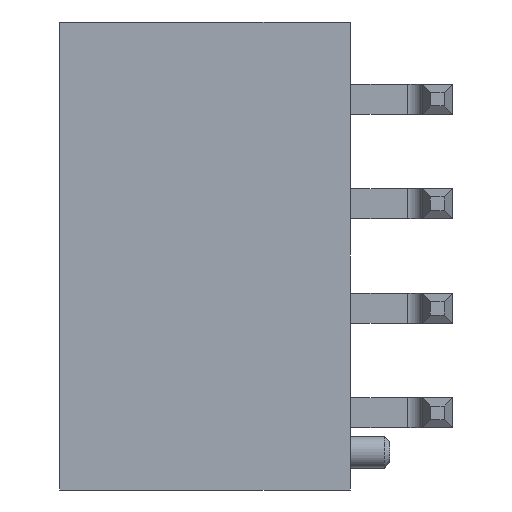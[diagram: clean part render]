
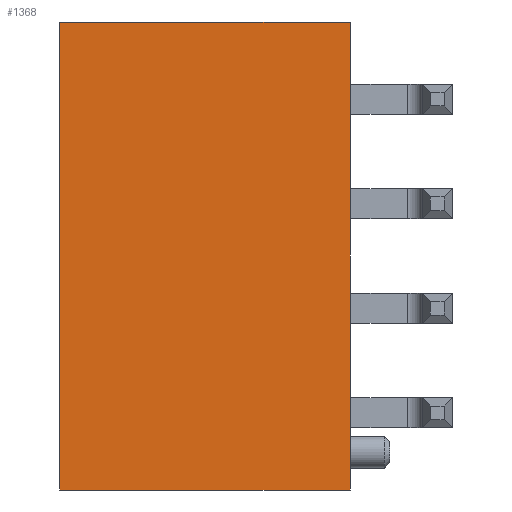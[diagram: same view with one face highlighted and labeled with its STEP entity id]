
A CAD part, left-side view. The second image highlights one B-rep face of the part: STEP entity #1368.
In plain terms, the highlighted planar face has unit normal (-1, 0, 0).
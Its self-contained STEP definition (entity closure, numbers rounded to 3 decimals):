
#56 = EDGE_CURVE ( 'NONE', #419, #5178, #6038, .T. ) ;
#60 = VECTOR ( 'NONE', #5483, 1000. ) ;
#272 = AXIS2_PLACEMENT_3D ( 'NONE', #753, #2614, #3634 ) ;
#419 = VERTEX_POINT ( 'NONE', #3864 ) ;
#421 = ORIENTED_EDGE ( 'NONE', *, *, #4378, .T. ) ;
#422 = VECTOR ( 'NONE', #2773, 1000. ) ;
#520 = CARTESIAN_POINT ( 'NONE',  ( -3.7, -2.861, 12.82 ) ) ;
#542 = EDGE_CURVE ( 'NONE', #419, #1916, #5542, .T. ) ;
#753 = CARTESIAN_POINT ( 'NONE',  ( -3.7, 8.139, 12.82 ) ) ;
#1246 = CARTESIAN_POINT ( 'NONE',  ( -3.7, -2.861, -12.82 ) ) ;
#1299 = CARTESIAN_POINT ( 'NONE',  ( -3.7, 8.139, -12.82 ) ) ;
#1358 = ORIENTED_EDGE ( 'NONE', *, *, #3536, .F. ) ;
#1368 = ADVANCED_FACE ( 'NONE', ( #4943 ), #2114, .F. ) ;
#1840 = DIRECTION ( 'NONE',  ( 0., 0., -1. ) ) ;
#1916 = VERTEX_POINT ( 'NONE', #2865 ) ;
#1996 = EDGE_LOOP ( 'NONE', ( #1358, #4219, #5128, #421 ) ) ;
#2114 = PLANE ( 'NONE',  #272 ) ;
#2142 = VECTOR ( 'NONE', #4517, 1000. ) ;
#2308 = CARTESIAN_POINT ( 'NONE',  ( -3.7, 8.139, 12.82 ) ) ;
#2423 = LINE ( 'NONE', #520, #422 ) ;
#2487 = VECTOR ( 'NONE', #1840, 1000. ) ;
#2614 = DIRECTION ( 'NONE',  ( 1., 0., 0. ) ) ;
#2773 = DIRECTION ( 'NONE',  ( 0., 0., -1. ) ) ;
#2865 = CARTESIAN_POINT ( 'NONE',  ( -3.7, -2.861, 4.9 ) ) ;
#3108 = CARTESIAN_POINT ( 'NONE',  ( -3.7, 8.139, 4.9 ) ) ;
#3536 = EDGE_CURVE ( 'NONE', #1916, #4333, #2423, .T. ) ;
#3634 = DIRECTION ( 'NONE',  ( 0., 1., 0. ) ) ;
#3864 = CARTESIAN_POINT ( 'NONE',  ( -3.7, 8.139, 4.9 ) ) ;
#4219 = ORIENTED_EDGE ( 'NONE', *, *, #542, .F. ) ;
#4333 = VERTEX_POINT ( 'NONE', #1246 ) ;
#4378 = EDGE_CURVE ( 'NONE', #5178, #4333, #4984, .T. ) ;
#4517 = DIRECTION ( 'NONE',  ( 0., -1., 0. ) ) ;
#4943 = FACE_OUTER_BOUND ( 'NONE', #1996, .T. ) ;
#4984 = LINE ( 'NONE', #1299, #2142 ) ;
#5128 = ORIENTED_EDGE ( 'NONE', *, *, #56, .T. ) ;
#5178 = VERTEX_POINT ( 'NONE', #6003 ) ;
#5483 = DIRECTION ( 'NONE',  ( 0., -1., 0. ) ) ;
#5542 = LINE ( 'NONE', #3108, #60 ) ;
#6003 = CARTESIAN_POINT ( 'NONE',  ( -3.7, 8.139, -12.82 ) ) ;
#6038 = LINE ( 'NONE', #2308, #2487 ) ;
